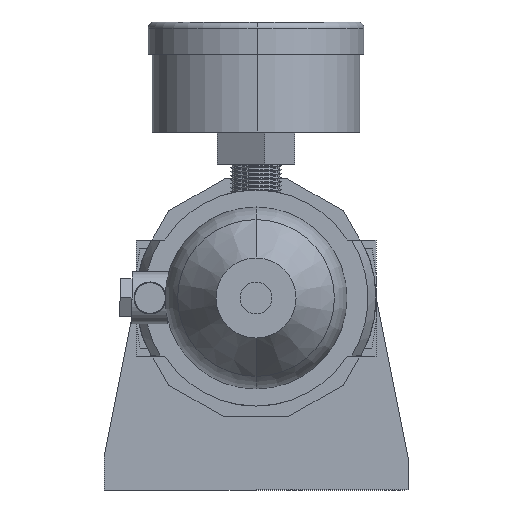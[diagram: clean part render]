
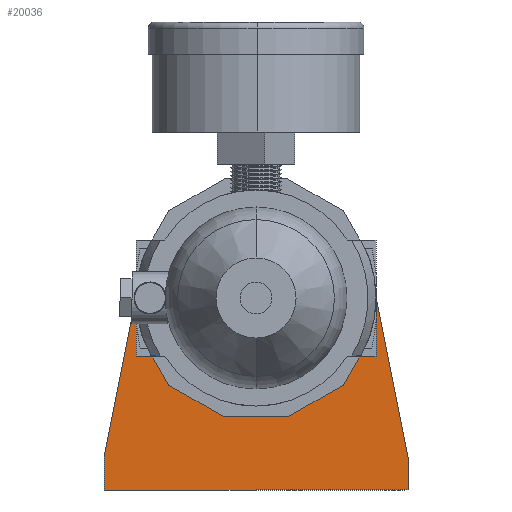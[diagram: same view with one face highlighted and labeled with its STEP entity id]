
A CAD part, front view. The second image highlights one B-rep face of the part: STEP entity #20036.
In plain terms, the highlighted planar face has unit normal (0, -1, 0).
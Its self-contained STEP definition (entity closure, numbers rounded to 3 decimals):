
#1801 = CARTESIAN_POINT ( 'NONE',  ( -38., 0., -40. ) ) ;
#2426 = VERTEX_POINT ( 'NONE', #22738 ) ;
#2724 = EDGE_CURVE ( 'NONE', #10048, #18708, #26485, .T. ) ;
#2728 = ORIENTED_EDGE ( 'NONE', *, *, #25559, .F. ) ;
#2838 = AXIS2_PLACEMENT_3D ( 'NONE', #14265, #14093, #26880 ) ;
#3559 = CARTESIAN_POINT ( 'NONE',  ( 0., 0., 0. ) ) ;
#4767 = VECTOR ( 'NONE', #16976, 1000. ) ;
#4998 = CARTESIAN_POINT ( 'NONE',  ( -38., 0., -48. ) ) ;
#6282 = AXIS2_PLACEMENT_3D ( 'NONE', #27085, #12182, #14125 ) ;
#6864 = FACE_OUTER_BOUND ( 'NONE', #9780, .T. ) ;
#6923 = EDGE_CURVE ( 'NONE', #21388, #18264, #24233, .T. ) ;
#7225 = CARTESIAN_POINT ( 'NONE',  ( -38., 0., -48. ) ) ;
#7749 = PLANE ( 'NONE',  #2838 ) ;
#7782 = AXIS2_PLACEMENT_3D ( 'NONE', #3559, #11901, #26896 ) ;
#7792 = ORIENTED_EDGE ( 'NONE', *, *, #2724, .F. ) ;
#7969 = EDGE_CURVE ( 'NONE', #2426, #9738, #8718, .T. ) ;
#8153 = LINE ( 'NONE', #7225, #27232 ) ;
#8472 = EDGE_CURVE ( 'NONE', #21628, #2426, #21546, .T. ) ;
#8718 = LINE ( 'NONE', #25780, #19233 ) ;
#9738 = VERTEX_POINT ( 'NONE', #22250 ) ;
#9780 = EDGE_LOOP ( 'NONE', ( #9981, #7792, #2728, #10136, #26130, #19318 ) ) ;
#9981 = ORIENTED_EDGE ( 'NONE', *, *, #18324, .F. ) ;
#10048 = VERTEX_POINT ( 'NONE', #10719 ) ;
#10136 = ORIENTED_EDGE ( 'NONE', *, *, #7969, .F. ) ;
#10671 = CIRCLE ( 'NONE', #7782, 29.5 ) ;
#10719 = CARTESIAN_POINT ( 'NONE',  ( -38., 0., -48. ) ) ;
#10839 = CARTESIAN_POINT ( 'NONE',  ( 38., 0., -40. ) ) ;
#11901 = DIRECTION ( 'NONE',  ( 0., 1., 0. ) ) ;
#12182 = DIRECTION ( 'NONE',  ( 0., 1., 0. ) ) ;
#12748 = VECTOR ( 'NONE', #17161, 1000. ) ;
#13366 = CARTESIAN_POINT ( 'NONE',  ( 28.937, 0., 5.734 ) ) ;
#14093 = DIRECTION ( 'NONE',  ( 0., 1., 0. ) ) ;
#14125 = DIRECTION ( 'NONE',  ( 0., 0., 1. ) ) ;
#14265 = CARTESIAN_POINT ( 'NONE',  ( 0., 0., 0. ) ) ;
#15186 = EDGE_CURVE ( 'NONE', #18264, #21388, #22469, .T. ) ;
#15260 = DIRECTION ( 'NONE',  ( 0., 0., -1. ) ) ;
#15900 = VECTOR ( 'NONE', #21822, 1000. ) ;
#16549 = ORIENTED_EDGE ( 'NONE', *, *, #6923, .T. ) ;
#16976 = DIRECTION ( 'NONE',  ( 0.194, 0., -0.981 ) ) ;
#17161 = DIRECTION ( 'NONE',  ( 0.194, 0., 0.981 ) ) ;
#17530 = CARTESIAN_POINT ( 'NONE',  ( 0., 0., -24. ) ) ;
#17551 = ORIENTED_EDGE ( 'NONE', *, *, #15186, .T. ) ;
#17772 = VERTEX_POINT ( 'NONE', #23674 ) ;
#18264 = VERTEX_POINT ( 'NONE', #17530 ) ;
#18324 = EDGE_CURVE ( 'NONE', #18708, #17772, #21996, .T. ) ;
#18708 = VERTEX_POINT ( 'NONE', #1801 ) ;
#18790 = CARTESIAN_POINT ( 'NONE',  ( 0., 0., 24. ) ) ;
#18973 = CARTESIAN_POINT ( 'NONE',  ( 0., 0., 0. ) ) ;
#19030 = FACE_BOUND ( 'NONE', #26009, .T. ) ;
#19233 = VECTOR ( 'NONE', #15260, 1000. ) ;
#19318 = ORIENTED_EDGE ( 'NONE', *, *, #23080, .F. ) ;
#19756 = DIRECTION ( 'NONE',  ( -1., 0., 0. ) ) ;
#20036 = ADVANCED_FACE ( 'NONE', ( #19030, #6864 ), #7749, .F. ) ;
#20823 = DIRECTION ( 'NONE',  ( 0., 0., 1. ) ) ;
#21388 = VERTEX_POINT ( 'NONE', #18790 ) ;
#21546 = LINE ( 'NONE', #10839, #4767 ) ;
#21628 = VERTEX_POINT ( 'NONE', #13366 ) ;
#21822 = DIRECTION ( 'NONE',  ( 0., 0., 1. ) ) ;
#21996 = LINE ( 'NONE', #23786, #12748 ) ;
#22250 = CARTESIAN_POINT ( 'NONE',  ( 38., 0., -48. ) ) ;
#22469 = CIRCLE ( 'NONE', #25456, 24. ) ;
#22738 = CARTESIAN_POINT ( 'NONE',  ( 38., 0., -40. ) ) ;
#23080 = EDGE_CURVE ( 'NONE', #17772, #21628, #10671, .T. ) ;
#23674 = CARTESIAN_POINT ( 'NONE',  ( -28.937, 0., 5.734 ) ) ;
#23786 = CARTESIAN_POINT ( 'NONE',  ( -38., 0., -40. ) ) ;
#24233 = CIRCLE ( 'NONE', #6282, 24. ) ;
#24869 = DIRECTION ( 'NONE',  ( 0., 1., 0. ) ) ;
#25456 = AXIS2_PLACEMENT_3D ( 'NONE', #18973, #24869, #20823 ) ;
#25559 = EDGE_CURVE ( 'NONE', #9738, #10048, #8153, .T. ) ;
#25780 = CARTESIAN_POINT ( 'NONE',  ( 38., 0., -48. ) ) ;
#26009 = EDGE_LOOP ( 'NONE', ( #16549, #17551 ) ) ;
#26130 = ORIENTED_EDGE ( 'NONE', *, *, #8472, .F. ) ;
#26485 = LINE ( 'NONE', #4998, #15900 ) ;
#26880 = DIRECTION ( 'NONE',  ( 0., 0., 1. ) ) ;
#26896 = DIRECTION ( 'NONE',  ( 0., 0., 1. ) ) ;
#27085 = CARTESIAN_POINT ( 'NONE',  ( 0., 0., 0. ) ) ;
#27232 = VECTOR ( 'NONE', #19756, 1000. ) ;
